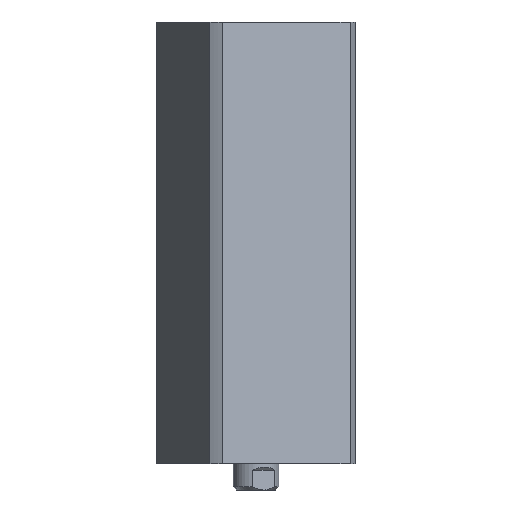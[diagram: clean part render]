
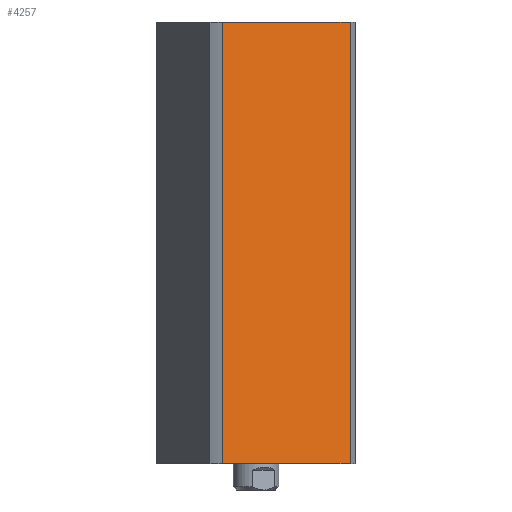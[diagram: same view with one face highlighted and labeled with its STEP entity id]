
A CAD part, left-side view. The second image highlights one B-rep face of the part: STEP entity #4257.
In plain terms, the highlighted planar face has unit normal (-0.924, -0.383, 0) as drawn and (1, 0, 0) by its records, which use the part's own axes.
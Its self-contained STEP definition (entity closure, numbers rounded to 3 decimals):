
#99 = DIRECTION ( 'NONE',  ( 0., 0., 1. ) ) ;
#729 = CARTESIAN_POINT ( 'NONE',  ( 24., 21.166, 135. ) ) ;
#848 = LINE ( 'NONE', #4103, #5461 ) ;
#1193 = ORIENTED_EDGE ( 'NONE', *, *, #2253, .T. ) ;
#1300 = CARTESIAN_POINT ( 'NONE',  ( 24., 24., 0. ) ) ;
#1460 = CARTESIAN_POINT ( 'NONE',  ( 24., -21.166, 135. ) ) ;
#1570 = EDGE_CURVE ( 'NONE', #5368, #7911, #8041, .T. ) ;
#1950 = EDGE_CURVE ( 'NONE', #7911, #4565, #848, .T. ) ;
#2083 = EDGE_CURVE ( 'NONE', #4565, #7014, #6888, .T. ) ;
#2101 = DIRECTION ( 'NONE',  ( -1., 0., 0. ) ) ;
#2253 = EDGE_CURVE ( 'NONE', #5368, #7014, #3002, .T. ) ;
#2479 = DIRECTION ( 'NONE',  ( 0., 1., 0. ) ) ;
#3002 = LINE ( 'NONE', #1300, #3173 ) ;
#3173 = VECTOR ( 'NONE', #3280, 1000. ) ;
#3280 = DIRECTION ( 'NONE',  ( 0., 1., 0. ) ) ;
#3835 = CARTESIAN_POINT ( 'NONE',  ( 24., -21.166, -165. ) ) ;
#4103 = CARTESIAN_POINT ( 'NONE',  ( 24., 24., 135. ) ) ;
#4257 = ADVANCED_FACE ( 'NONE', ( #7980 ), #7655, .F. ) ;
#4565 = VERTEX_POINT ( 'NONE', #729 ) ;
#4784 = VECTOR ( 'NONE', #99, 1000. ) ;
#5368 = VERTEX_POINT ( 'NONE', #7006 ) ;
#5461 = VECTOR ( 'NONE', #2479, 1000. ) ;
#5589 = CARTESIAN_POINT ( 'NONE',  ( 24., 21.166, -165. ) ) ;
#5601 = AXIS2_PLACEMENT_3D ( 'NONE', #5840, #2101, #6459 ) ;
#5806 = EDGE_LOOP ( 'NONE', ( #6909, #1193, #6654, #7971 ) ) ;
#5840 = CARTESIAN_POINT ( 'NONE',  ( 24., 24., 135. ) ) ;
#6224 = DIRECTION ( 'NONE',  ( 0., 0., -1. ) ) ;
#6459 = DIRECTION ( 'NONE',  ( 0., -1., 0. ) ) ;
#6654 = ORIENTED_EDGE ( 'NONE', *, *, #2083, .F. ) ;
#6715 = VECTOR ( 'NONE', #6224, 1000. ) ;
#6888 = LINE ( 'NONE', #5589, #6715 ) ;
#6909 = ORIENTED_EDGE ( 'NONE', *, *, #1570, .F. ) ;
#7006 = CARTESIAN_POINT ( 'NONE',  ( 24., -21.166, 0. ) ) ;
#7014 = VERTEX_POINT ( 'NONE', #7962 ) ;
#7655 = PLANE ( 'NONE',  #5601 ) ;
#7911 = VERTEX_POINT ( 'NONE', #1460 ) ;
#7962 = CARTESIAN_POINT ( 'NONE',  ( 24., 21.166, 0. ) ) ;
#7971 = ORIENTED_EDGE ( 'NONE', *, *, #1950, .F. ) ;
#7980 = FACE_OUTER_BOUND ( 'NONE', #5806, .T. ) ;
#8041 = LINE ( 'NONE', #3835, #4784 ) ;
